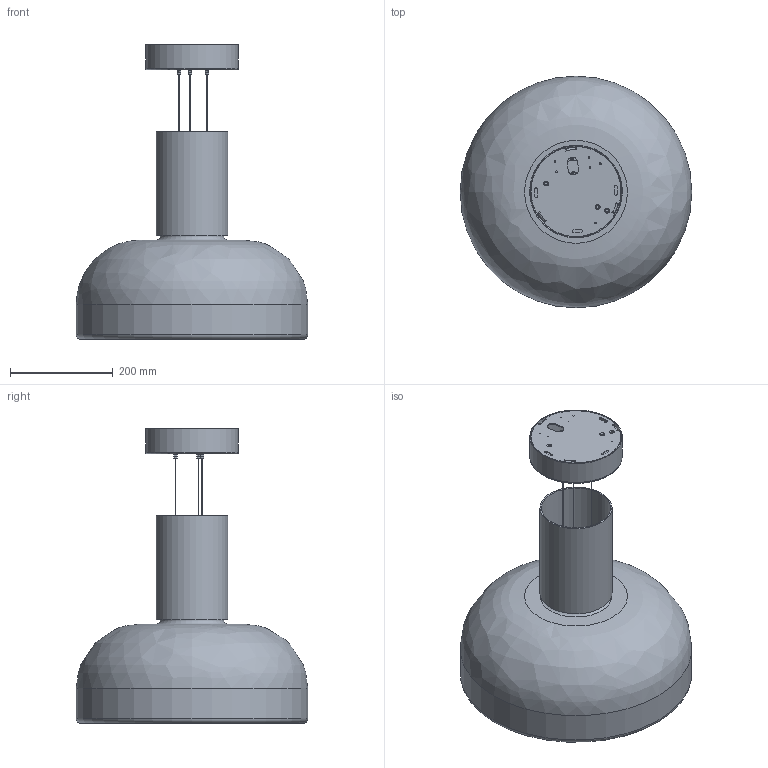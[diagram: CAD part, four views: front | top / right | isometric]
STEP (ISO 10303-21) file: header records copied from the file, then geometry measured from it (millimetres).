
FILE_DESCRIPTION(/* description */ ('AELLA SOSPENSIONE - S45'),/* implementation_level */ '2;1');
FILE_NAME(/* name */ '00500MC0LD1 - AELLA S45 COLLO ALTO - SEMPLIFICATA.stp',/* time_stamp */ '2023-05-03T13:03:45+02:00',/* author */ ('davide.turci'),/* organization */ (''),/* preprocessor_version */ 'ST-DEVELOPER v19.2',/* originating_system */ 'Autodesk Inventor 2023',/* authorisation */ '');
FILE_SCHEMA (('AUTOMOTIVE_DESIGN { 1 0 10303 214 3 1 1 }'));
Length unit declared in the file: millimetre
Products named in the file (25): 00500MC0LD1; 00500V002-B; 00500C011-B; 00500C202; DISSIPATORE MODULED 9920-B MECHATRONIX; VITE TC AUTOFIL M2,9X9,5 ZN UNI6954AB DIN7981C; K001; 00500C227; 00500C007; B001; B002; GRANO STEAB 5408-4-10-011 M7X1 NEUTRO; 00500C223; 00500C223_1; DISTANZIALE PRESSIONE M3 H8 FIL. PASS. TIPO SPECIALINSERT DP08 1 030 
12; DISTANZIALE PRESSIONE M4 H.6 FIL. PASS. TIPO SPECIALINSERT DP06 0 040.
12; K002; CAVO ACC. INOX 1X49 L 3500MM + FIN D.3X3; ASM-ROS-01; PIA-ROS-01; COP-ROS-01; GRIPPER M10X1+CILINDRETTO SICUREZZA NICHEL; DADO M10X1 H3 M.00.52.11 ELETTROLAMPART; NIPPLO M10X1 STEAB 5016-3-7-011 NEUTRO; 00500C115
Assembly tree (39 placements, depth 3):
  00500MC0LD1
    00500V002-B
    00500C011-B
    00500C202
      DISSIPATORE MODULED 9920-B MECHATRONIX
      VITE TC AUTOFIL M2,9X9,5 ZN UNI6954AB DIN7981C  x2
      K001
      00500C227
      B002
      B001
      GRANO STEAB 5408-4-10-011 M7X1 NEUTRO
    00500C007
    B001
    B002
    GRANO STEAB 5408-4-10-011 M7X1 NEUTRO
    00500C223
      00500C223_1
      DISTANZIALE PRESSIONE M3 H8 FIL. PASS. TIPO SPECIALINSERT DP08 1 030 
12  x2
      DISTANZIALE PRESSIONE M4 H.6 FIL. PASS. TIPO SPECIALINSERT DP06 0 040.
12  x3
    K002
    CAVO ACC. INOX 1X49 L 3500MM + FIN D.3X3  x3
    ASM-ROS-01
      PIA-ROS-01
      COP-ROS-01
      GRIPPER M10X1+CILINDRETTO SICUREZZA NICHEL  x3
      DADO M10X1 H3 M.00.52.11 ELETTROLAMPART  x3
      NIPPLO M10X1 STEAB 5016-3-7-011 NEUTRO
    00500C115  x3
Bounding box: 450 x 450 x 572.99 mm (x, y, z)
Volume: 3042064.4 mm3; surface area: 1466787.3 mm2
Topology: 39 solids, 39 shells, 2174 faces, 5493 edges, 3553 vertices
Faces by surface type: plane 1150, cylinder 836, cone 107, torus 69, sphere 8, bspline 4
Full cylindrical faces by diameter (mm): 1 x3, 1.5 x3, 2 x6, 2.459 x2, 2.9 x2, 3 x11, 3.3 x3, 3.5 x8, 4 x14, 4.5 x4, 5 x3, 5.38 x2, 5.4 x2, 5.917 x2, 6 x3, 6.5 x3, 7 x5, 7.11 x3, 7.2 x3, 9 x5, 10 x12, 10.5 x2, 12 x6, 13 x3, 106 x1, 113 x1, 123 x1, 134 x1, 140 x1, 178 x1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
Entity records: 55867 total; most frequent: CARTESIAN_POINT 10022, DIRECTION 9702, ORIENTED_EDGE 8888, EDGE_CURVE 4444, AXIS2_PLACEMENT_3D 3567, VERTEX_POINT 2872, LINE 2568, VECTOR 2568
